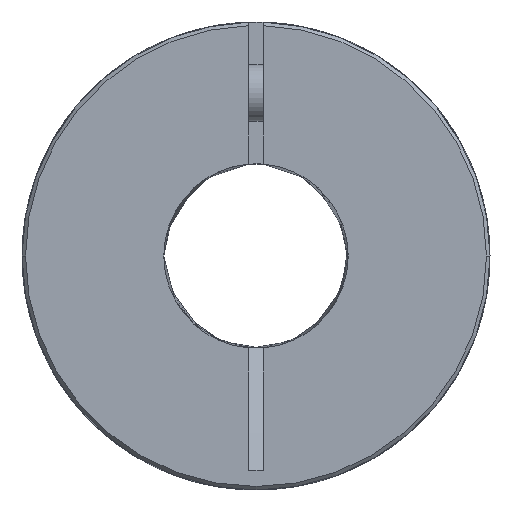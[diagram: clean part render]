
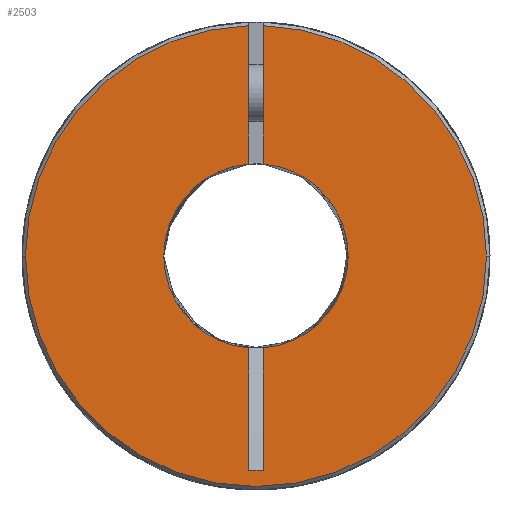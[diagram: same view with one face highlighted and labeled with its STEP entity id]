
A CAD part, left-side view. The second image highlights one B-rep face of the part: STEP entity #2503.
In plain terms, the highlighted free-form (B-spline) face has degree [1, 1] with [2, 2] control points.
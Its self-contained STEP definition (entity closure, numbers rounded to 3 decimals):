
#128=CARTESIAN_POINT('',(-39.5,0.,0.));
#129=DIRECTION('',(1.,0.,0.));
#130=DIRECTION('',(0.,1.,0.));
#131=AXIS2_PLACEMENT_3D('',#128,#129,#130);
#133=CARTESIAN_POINT('',(-39.5,0.,0.));
#134=DIRECTION('',(1.,0.,0.));
#135=DIRECTION('',(0.,0.077,-0.997));
#136=AXIS2_PLACEMENT_3D('',#133,#134,#135);
#138=DIRECTION('',(0.,0.,1.));
#139=VECTOR('',#138,17.272);
#140=CARTESIAN_POINT('',(-39.5,1.,-30.233));
#141=LINE('',#140,#139);
#142=CARTESIAN_POINT('',(-39.5,0.,0.));
#143=DIRECTION('',(1.,0.,0.));
#144=DIRECTION('',(0.,-1.,0.));
#145=AXIS2_PLACEMENT_3D('',#142,#143,#144);
#147=CARTESIAN_POINT('',(-39.5,0.,0.));
#148=DIRECTION('',(1.,0.,0.));
#149=DIRECTION('',(0.,-0.077,0.997));
#150=AXIS2_PLACEMENT_3D('',#147,#148,#149);
#152=CARTESIAN_POINT('',(-39.5,0.,0.));
#153=DIRECTION('',(-1.,0.,0.));
#154=DIRECTION('',(0.,-1.,0.));
#155=AXIS2_PLACEMENT_3D('',#152,#153,#154);
#157=CARTESIAN_POINT('',(-39.5,0.,0.));
#158=DIRECTION('',(-1.,0.,0.));
#159=DIRECTION('',(0.,1.,0.));
#160=AXIS2_PLACEMENT_3D('',#157,#158,#159);
#162=CARTESIAN_POINT('',(-39.5,0.,0.));
#163=DIRECTION('',(-1.,0.,0.));
#164=DIRECTION('',(0.,0.031,1.));
#165=AXIS2_PLACEMENT_3D('',#162,#163,#164);
#167=DIRECTION('',(0.,0.,1.));
#168=VECTOR('',#167,19.523);
#169=CARTESIAN_POINT('',(-39.5,1.,12.961));
#170=LINE('',#169,#168);
#1812=CARTESIAN_POINT('',(-39.5,-1.,32.485));
#1819=DIRECTION('',(0.,0.,1.));
#1820=VECTOR('',#1819,19.523);
#1821=CARTESIAN_POINT('',(-39.5,-1.,12.961));
#1822=LINE('',#1821,#1820);
#1837=DIRECTION('',(0.,0.,1.));
#1838=VECTOR('',#1837,17.272);
#1839=CARTESIAN_POINT('',(-39.5,-1.,-30.233));
#1840=LINE('',#1839,#1838);
#1846=DIRECTION('',(0.,-1.,0.));
#1847=VECTOR('',#1846,2.);
#1848=CARTESIAN_POINT('',(-39.5,1.,-30.233));
#1849=LINE('',#1848,#1847);
#1896=CARTESIAN_POINT('',(-39.5,-1.,-30.233));
#1898=VERTEX_POINT('',#1896);
#1901=CARTESIAN_POINT('',(-39.5,13.,0.));
#1903=VERTEX_POINT('',#1901);
#1914=CARTESIAN_POINT('',(-39.5,-32.5,0.));
#1916=VERTEX_POINT('',#1914);
#1921=CARTESIAN_POINT('',(-39.5,-13.,0.));
#1922=CARTESIAN_POINT('',(-39.5,-1.,-12.961));
#1923=VERTEX_POINT('',#1921);
#1924=VERTEX_POINT('',#1922);
#1936=CARTESIAN_POINT('',(-39.5,1.,12.961));
#1938=VERTEX_POINT('',#1936);
#1939=CARTESIAN_POINT('',(-39.5,32.5,0.));
#1940=VERTEX_POINT('',#1939);
#1945=CARTESIAN_POINT('',(-39.5,1.,32.485));
#1946=VERTEX_POINT('',#1945);
#1951=VERTEX_POINT('',#1812);
#1962=CARTESIAN_POINT('',(-39.5,1.,-30.233));
#1963=VERTEX_POINT('',#1962);
#1964=CARTESIAN_POINT('',(-39.5,1.,-12.961));
#1965=VERTEX_POINT('',#1964);
#1969=CARTESIAN_POINT('',(-39.5,-1.,12.961));
#1970=VERTEX_POINT('',#1969);
#2473=CARTESIAN_POINT('',(-39.5,33.8,-33.809));
#2474=CARTESIAN_POINT('',(-39.5,33.8,33.784));
#2475=CARTESIAN_POINT('',(-39.5,-33.8,-33.809));
#2476=CARTESIAN_POINT('',(-39.5,-33.8,33.784));
#2477=B_SPLINE_SURFACE_WITH_KNOTS('',1,1,((#2473,#2474),(#2475,#2476)),
.UNSPECIFIED.,.F.,.F.,.F.,(2,2),(2,2),(-33.8,33.8),(-33.809,
33.784),.UNSPECIFIED.);
#2479=ORIENTED_EDGE('',*,*,#2478,.F.);
#2481=ORIENTED_EDGE('',*,*,#2480,.F.);
#2483=ORIENTED_EDGE('',*,*,#2482,.F.);
#2485=ORIENTED_EDGE('',*,*,#2484,.T.);
#2487=ORIENTED_EDGE('',*,*,#2486,.T.);
#2489=ORIENTED_EDGE('',*,*,#2488,.F.);
#2491=ORIENTED_EDGE('',*,*,#2490,.F.);
#2493=ORIENTED_EDGE('',*,*,#2492,.T.);
#2494=ORIENTED_EDGE('',*,*,#2463,.F.);
#2496=ORIENTED_EDGE('',*,*,#2495,.F.);
#2498=ORIENTED_EDGE('',*,*,#2497,.F.);
#2500=ORIENTED_EDGE('',*,*,#2499,.F.);
#2501=EDGE_LOOP('',(#2479,#2481,#2483,#2485,#2487,#2489,#2491,#2493,#2494,#2496,
#2498,#2500));
#2502=FACE_OUTER_BOUND('',#2501,.F.);
#2503=ADVANCED_FACE('',(#2502),#2477,.T.);
#132=CIRCLE('',#131,13.);
#137=CIRCLE('',#136,13.);
#146=CIRCLE('',#145,13.);
#151=CIRCLE('',#150,13.);
#156=CIRCLE('',#155,32.5);
#161=CIRCLE('',#160,32.5);
#166=CIRCLE('',#165,32.5);
#2463=EDGE_CURVE('',#1916,#1951,#156,.T.);
#2478=EDGE_CURVE('',#1903,#1938,#132,.T.);
#2480=EDGE_CURVE('',#1965,#1903,#137,.T.);
#2482=EDGE_CURVE('',#1963,#1965,#141,.T.);
#2484=EDGE_CURVE('',#1963,#1898,#1849,.T.);
#2486=EDGE_CURVE('',#1898,#1924,#1840,.T.);
#2488=EDGE_CURVE('',#1923,#1924,#146,.T.);
#2490=EDGE_CURVE('',#1970,#1923,#151,.T.);
#2492=EDGE_CURVE('',#1970,#1951,#1822,.T.);
#2495=EDGE_CURVE('',#1940,#1916,#161,.T.);
#2497=EDGE_CURVE('',#1946,#1940,#166,.T.);
#2499=EDGE_CURVE('',#1938,#1946,#170,.T.);
